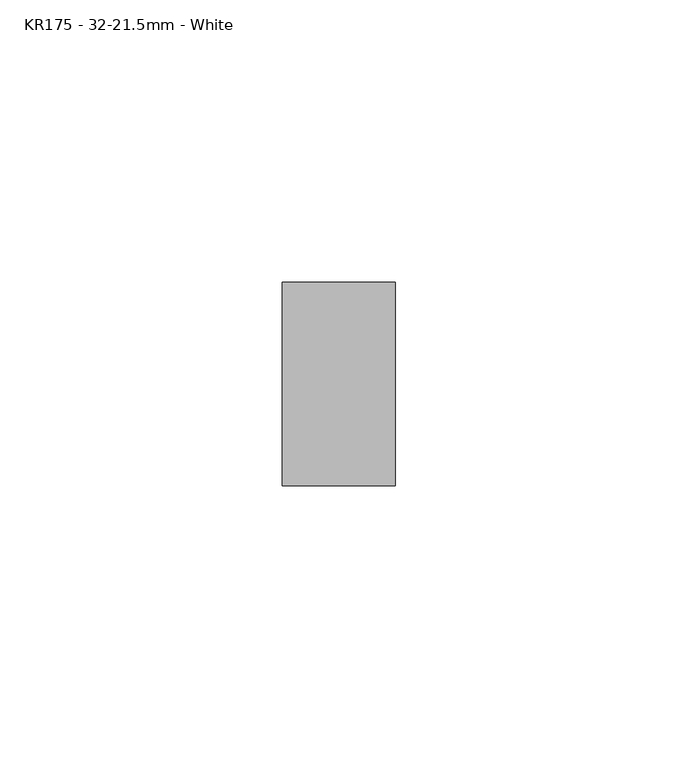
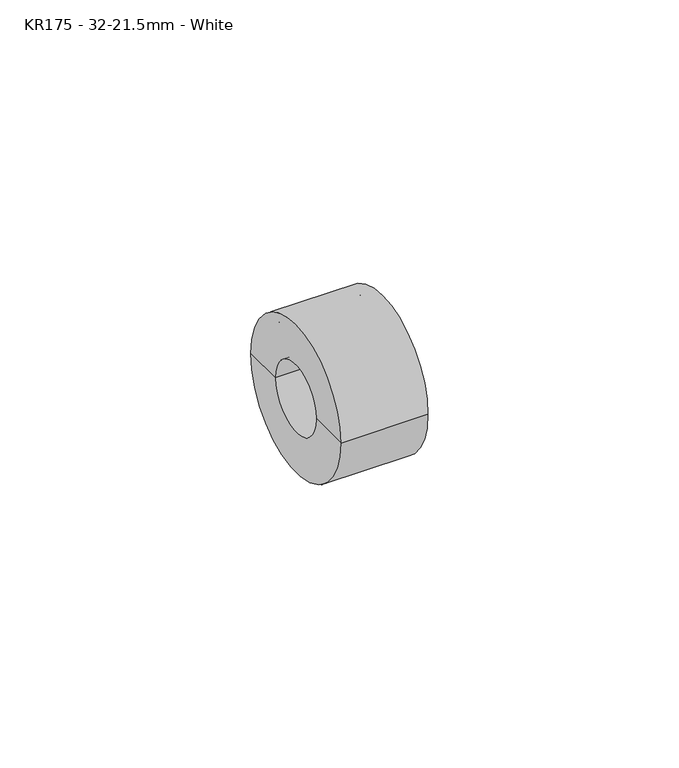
"""IFC4 building model written with IfcOpenShell, lengths in millimetres: pipe fitting geometry, MarleyPlumbingAndDrainage_PipeFitting_SocketReducer : KR175 - 32-21.5mm - White."""

from ifc_helpers import new_model, si_unit, frame, origin, place, context, project, spatial, polyline, circle_curve, source, transform, mapped, element, save
from ifc_brep_helpers import plane_surface, cylinder_surface, revolved_surface, advanced_brep


def kr175_32_21_5mm_white_198541a2(model_context):
    return source(origin(), model_context, "Body", "AdvancedBrep", [
        advanced_brep(
        [(-14.8253818, -15.5, 0.0), (-14.8253818, 15.5, 0.0), (-14.8253818, 10.75, 0.0), (-14.8253818, -10.75, 0.0), (2.6746182, -15.5, 0.0), (2.6746182, 15.5, 0.0), (2.6746182, -18.0, 0.0), (2.6746182, 18.0, 0.0), (-17.3253818, -18.0, 0.0), (-17.3253818, 18.0, 0.0), (-17.3253818, -8.25, 0.0), (-17.3253818, 8.25, 0.0), (-2.3253818, -8.25, 0.0), (-2.3253818, 8.25, 0.0), (-2.3253818, -10.75, 0.0), (-2.3253818, 10.75, 0.0)],
        [
            (0, 1, circle_curve(frame((-14.8253818, 0.0, 0.0), z_axis=(1.0, 0.0, 0.0), x_axis=(0.0, 1.0, 0.0)), 15.5)),
            (1, 2),
            (2, 3, circle_curve(frame((-14.8253818, 0.0, 0.0), z_axis=(-1.0, 0.0, 0.0), x_axis=(0.0, 1.0, 0.0)), 10.75)),
            (3, 0),
            (1, 0, circle_curve(frame((-14.8253818, 0.0, 0.0), z_axis=(1.0, 0.0, 0.0), x_axis=(0.0, 1.0, 0.0)), 15.5)),
            (3, 2, circle_curve(frame((-14.8253818, 0.0, 0.0), z_axis=(-1.0, 0.0, 0.0), x_axis=(0.0, 1.0, 0.0)), 10.75)),
            (4, 5, circle_curve(frame((2.6746182, 0.0, 0.0), z_axis=(1.0, 0.0, 0.0), x_axis=(0.0, 1.0, 0.0)), 15.5)),
            (5, 1),
            (0, 4),
            (5, 4, circle_curve(frame((2.6746182, 0.0, 0.0), z_axis=(1.0, 0.0, 0.0), x_axis=(0.0, 1.0, 0.0)), 15.5)),
            (6, 7, circle_curve(frame((2.6746182, 0.0, 0.0), z_axis=(1.0, 0.0, 0.0), x_axis=(0.0, 1.0, 0.0)), 18.0)),
            (7, 5),
            (4, 6),
            (7, 6, circle_curve(frame((2.6746182, 0.0, 0.0), z_axis=(1.0, 0.0, 0.0), x_axis=(0.0, 1.0, 0.0)), 18.0)),
            (8, 9, circle_curve(frame((-17.3253818, 0.0, 0.0), z_axis=(1.0, 0.0, 0.0), x_axis=(0.0, 1.0, 0.0)), 18.0)),
            (9, 7),
            (6, 8),
            (9, 8, circle_curve(frame((-17.3253818, 0.0, 0.0), z_axis=(1.0, 0.0, 0.0), x_axis=(0.0, 1.0, 0.0)), 18.0)),
            (10, 11, circle_curve(frame((-17.3253818, 0.0, 0.0), z_axis=(1.0, 0.0, 0.0), x_axis=(0.0, 1.0, 0.0)), 8.25)),
            (11, 9),
            (8, 10),
            (11, 10, circle_curve(frame((-17.3253818, 0.0, 0.0), z_axis=(1.0, 0.0, 0.0), x_axis=(0.0, 1.0, 0.0)), 8.25)),
            (12, 13, circle_curve(frame((-2.3253818, 0.0, 0.0), z_axis=(1.0, 0.0, 0.0), x_axis=(0.0, 1.0, 0.0)), 8.25)),
            (13, 11),
            (10, 12),
            (13, 12, circle_curve(frame((-2.3253818, 0.0, 0.0), z_axis=(1.0, 0.0, 0.0), x_axis=(0.0, 1.0, 0.0)), 8.25)),
            (14, 15, circle_curve(frame((-2.3253818, 0.0, 0.0), z_axis=(1.0, 0.0, 0.0), x_axis=(0.0, 1.0, 0.0)), 10.75)),
            (15, 13),
            (12, 14),
            (15, 14, circle_curve(frame((-2.3253818, 0.0, 0.0), z_axis=(1.0, 0.0, 0.0), x_axis=(0.0, 1.0, 0.0)), 10.75)),
            (2, 15),
            (14, 3),
        ],
        [
            plane_surface(frame((-14.8253818, 0.0, 0.0), z_axis=(1.0, 0.0, 0.0), x_axis=(0.0, 1.0, 0.0))),
            revolved_surface(polyline([(-14.82538180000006, 15.5, 0.0), (2.6746181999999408, 15.5, 0.0)]), (2006.5, 0.0, 0.0), (-1.0, 0.0, 0.0)),
            plane_surface(frame((2.6746182, 0.0, 0.0), z_axis=(1.0, 0.0, 0.0), x_axis=(0.0, 1.0, 0.0))),
            cylinder_surface(frame((2006.5, 0.0, 0.0), z_axis=(-1.0, 0.0, 0.0), x_axis=(0.0, 1.0, 0.0)), 18.0),
            plane_surface(frame((-17.3253818, 0.0, 0.0), z_axis=(-1.0, 0.0, 0.0), x_axis=(0.0, 1.0, 0.0))),
            revolved_surface(polyline([(-17.32538180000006, 8.25, 0.0), (-2.3253818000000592, 8.25, 0.0)]), (2006.5, 0.0, 0.0), (-1.0, 0.0, 0.0)),
            plane_surface(frame((-2.3253818, 0.0, 0.0), z_axis=(1.0, 0.0, 0.0), x_axis=(0.0, 1.0, 0.0))),
            cylinder_surface(frame((2006.5, 0.0, 0.0), z_axis=(-1.0, 0.0, 0.0), x_axis=(0.0, 1.0, 0.0)), 10.75),
        ],
        [
            (0, [[1, 2, 3, 4]]),
            (0, [[5, -4, 6, -2]]),
            (1, [[7, 8, -1, 9]]),
            (1, [[10, -9, -5, -8]]),
            (2, [[11, 12, -7, 13]]),
            (2, [[14, -13, -10, -12]]),
            (3, [[15, 16, -11, 17]]),
            (3, [[18, -17, -14, -16]]),
            (4, [[19, 20, -15, 21]]),
            (4, [[22, -21, -18, -20]]),
            (5, [[23, 24, -19, 25]]),
            (5, [[26, -25, -22, -24]]),
            (6, [[27, 28, -23, 29]]),
            (6, [[30, -29, -26, -28]]),
            (7, [[-3, 31, -27, 32]]),
            (7, [[-6, -32, -30, -31]]),
        ],
    ),
    ])


if __name__ == "__main__":
    model = new_model("IFC4")
    model_context = context("Model", 3, world=origin())
    ifc_project = project(units=[si_unit("LENGTHUNIT", "METRE", prefix="MILLI")], contexts=[model_context])
    site = spatial("IfcSite", under=ifc_project)
    building = spatial("IfcBuilding", under=site)
    placement = place(None, origin())
    kr175_32_21_5mm_white_shape = kr175_32_21_5mm_white_198541a2(model_context)
    element("IfcPipeFitting", 1, ObjectType="MarleyPlumbingAndDrainage_PipeFitting_SocketReducer : KR175 - 32-21.5mm - White", at=placement, inside=building, context=model_context, shape_type="MappedRepresentation", body=[
        mapped(kr175_32_21_5mm_white_shape, transform((0.0, 0.0, 0.0), x_axis=(1.0, 0.0, 0.0), y_axis=(0.0, 1.0, 0.0), z_axis=(0.0, 0.0, 1.0))),
    ])
    save(model, "model.ifc")
